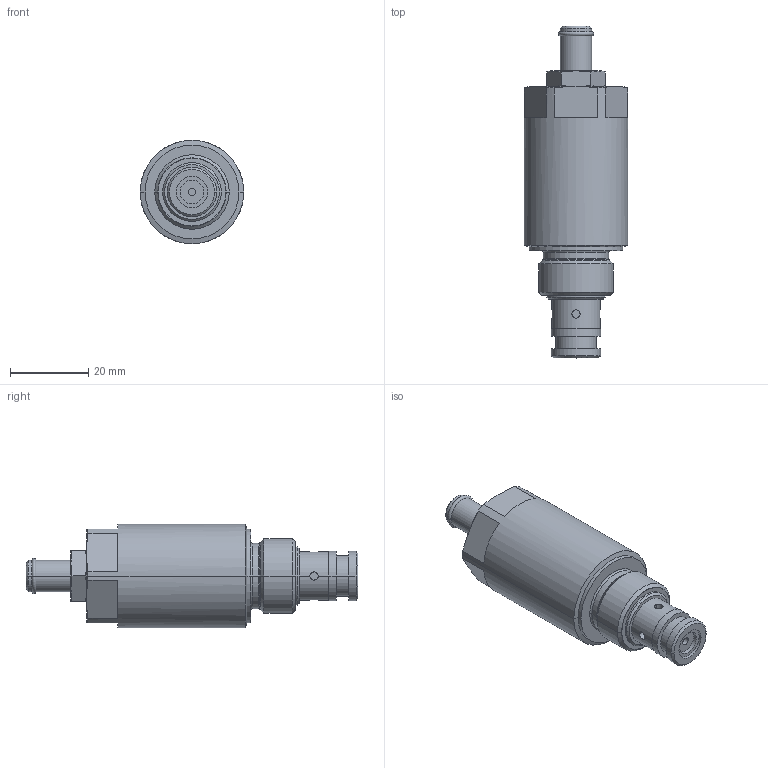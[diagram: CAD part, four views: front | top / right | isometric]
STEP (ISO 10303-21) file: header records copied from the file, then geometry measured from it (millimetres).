
FILE_DESCRIPTION((''),'2;1');
FILE_NAME('SF22A_A2','2011-03-14T',('tvatras'),(''),'PRO/ENGINEER BY PARAMETRIC TECHNOLOGY CORPORATION, 2010180','PRO/ENGINEER BY PARAMETRIC TECHNOLOGY CORPORATION, 2010180','');
FILE_SCHEMA(('CONFIG_CONTROL_DESIGN'));
Length unit declared in the file: millimetre
Products named in the file (1): SF22A_A2
Bounding box: 26.5 x 85 x 26.5 mm (x, y, z)
Volume: 28452.1 mm3; surface area: 7438.1 mm2
Topology: 1 solids, 3 shells, 127 faces, 291 edges, 179 vertices
Faces by surface type: plane 47, cylinder 40, cone 34, torus 6
Entity records: 3804 total; most frequent: CARTESIAN_POINT 886, DIRECTION 635, ORIENTED_EDGE 568, EDGE_CURVE 288, AXIS2_PLACEMENT_3D 267, VERTEX_POINT 177, EDGE_LOOP 141, CIRCLE 138
